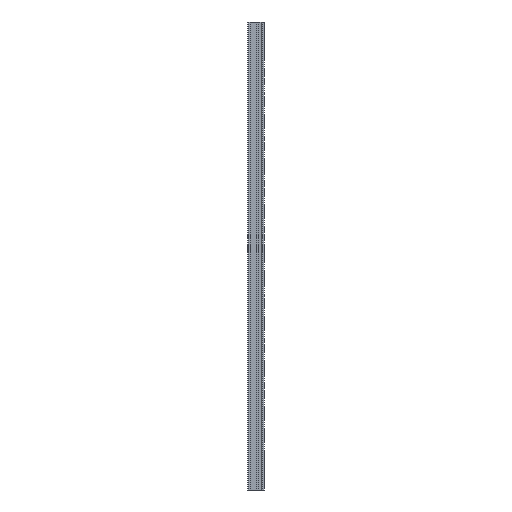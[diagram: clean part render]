
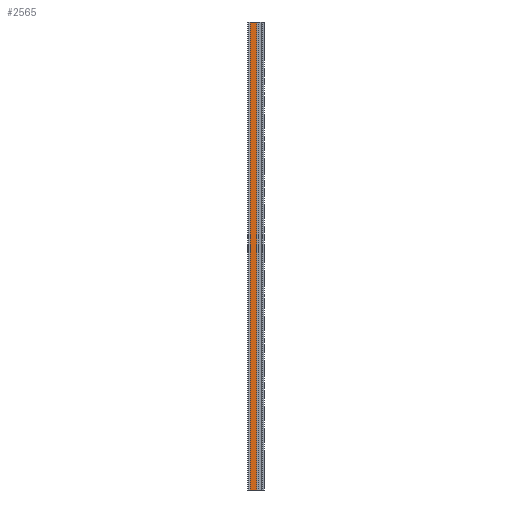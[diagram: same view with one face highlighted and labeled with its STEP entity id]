
A CAD part, left-side view. The second image highlights one B-rep face of the part: STEP entity #2565.
In plain terms, the highlighted planar face has unit normal (-1, 0, 0).
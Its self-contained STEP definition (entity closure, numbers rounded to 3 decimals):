
#307=FACE_OUTER_BOUND('',#473,.T.);
#473=EDGE_LOOP('',(#2293,#2294,#2295,#2296));
#644=LINE('',#4000,#918);
#739=LINE('',#4215,#1013);
#740=LINE('',#4218,#1014);
#741=LINE('',#4219,#1015);
#918=VECTOR('',#3285,10.);
#1013=VECTOR('',#3476,10.);
#1014=VECTOR('',#3479,10.);
#1015=VECTOR('',#3480,10.);
#1193=VERTEX_POINT('',#3997);
#1194=VERTEX_POINT('',#3999);
#1266=VERTEX_POINT('',#4213);
#1267=VERTEX_POINT('',#4217);
#1513=EDGE_CURVE('',#1193,#1194,#644,.T.);
#1621=EDGE_CURVE('',#1266,#1194,#739,.T.);
#1622=EDGE_CURVE('',#1267,#1266,#740,.T.);
#1623=EDGE_CURVE('',#1267,#1193,#741,.T.);
#2293=ORIENTED_EDGE('',*,*,#1622,.T.);
#2294=ORIENTED_EDGE('',*,*,#1621,.T.);
#2295=ORIENTED_EDGE('',*,*,#1513,.F.);
#2296=ORIENTED_EDGE('',*,*,#1623,.F.);
#2443=PLANE('',#2802);
#2565=ADVANCED_FACE('',(#307),#2443,.T.);
#2802=AXIS2_PLACEMENT_3D('',#4216,#3477,#3478);
#3285=DIRECTION('',(0.,-1.,0.));
#3476=DIRECTION('',(0.,0.,1.));
#3477=DIRECTION('center_axis',(-1.,0.,0.));
#3478=DIRECTION('ref_axis',(0.,-1.,0.));
#3479=DIRECTION('',(0.,-1.,0.));
#3480=DIRECTION('',(0.,0.,1.));
#3997=CARTESIAN_POINT('',(-13.5,12.5,417.));
#3999=CARTESIAN_POINT('',(-13.5,7.,417.));
#4000=CARTESIAN_POINT('',(-13.5,12.5,417.));
#4213=CARTESIAN_POINT('',(-13.5,7.,0.));
#4215=CARTESIAN_POINT('',(-13.5,7.,0.));
#4216=CARTESIAN_POINT('Origin',(-13.5,12.5,0.));
#4217=CARTESIAN_POINT('',(-13.5,12.5,0.));
#4218=CARTESIAN_POINT('',(-13.5,12.5,0.));
#4219=CARTESIAN_POINT('',(-13.5,12.5,0.));
